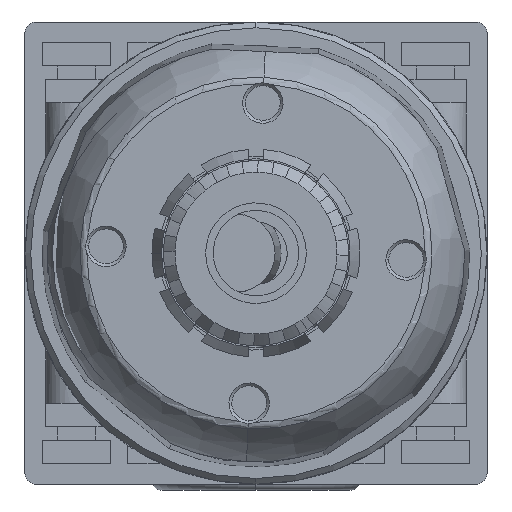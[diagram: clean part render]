
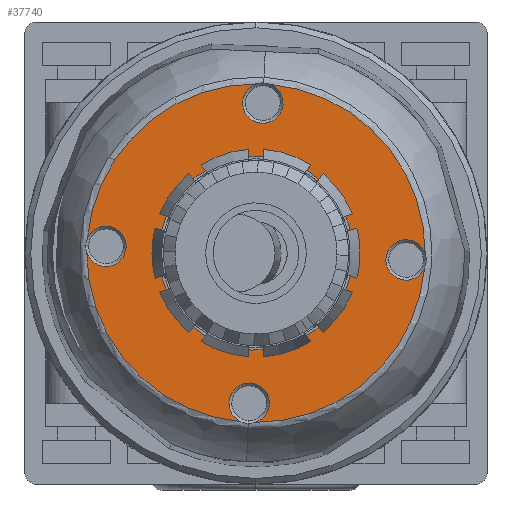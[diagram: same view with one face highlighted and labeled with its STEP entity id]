
A CAD part, front view. The second image highlights one B-rep face of the part: STEP entity #37740.
In plain terms, the highlighted planar face has unit normal (0, -1, 0).
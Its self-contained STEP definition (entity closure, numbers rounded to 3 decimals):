
#9188 = AXIS2_PLACEMENT_3D ( 'NONE', #20213, #20214, #20215 ) ;
#9195 = AXIS2_PLACEMENT_3D ( 'NONE', #20240, #20241, #20242 ) ;
#9201 = AXIS2_PLACEMENT_3D ( 'NONE', #20267, #20268, #20269 ) ;
#9207 = AXIS2_PLACEMENT_3D ( 'NONE', #20294, #20295, #20296 ) ;
#9216 = AXIS2_PLACEMENT_3D ( 'NONE', #17960, #22777, #22778 ) ;
#9248 = AXIS2_PLACEMENT_3D ( 'NONE', #22843, #22844, #22845 ) ;
#9250 = AXIS2_PLACEMENT_3D ( 'NONE', #22852, #22853, #22854 ) ;
#9327 = AXIS2_PLACEMENT_3D ( 'NONE', #23323, #23324, #23325 ) ;
#9330 = AXIS2_PLACEMENT_3D ( 'NONE', #23326, #23327, #23328 ) ;
#9332 = AXIS2_PLACEMENT_3D ( 'NONE', #23329, #23330, #23331 ) ;
#9334 = AXIS2_PLACEMENT_3D ( 'NONE', #23332, #23333, #23334 ) ;
#9336 = AXIS2_PLACEMENT_3D ( 'NONE', #23335, #23336, #23337 ) ;
#9338 = AXIS2_PLACEMENT_3D ( 'NONE', #23340, #23341, #23342 ) ;
#9340 = AXIS2_PLACEMENT_3D ( 'NONE', #23345, #23346, #23347 ) ;
#17695 = CARTESIAN_POINT ( 'NONE',  ( -9.521, -140.18, 3.115 ) ) ;
#17699 = CARTESIAN_POINT ( 'NONE',  ( -12.87, -140.18, 3.902 ) ) ;
#17702 = CARTESIAN_POINT ( 'NONE',  ( 2.23, -140.18, 13.841 ) ) ;
#17706 = CARTESIAN_POINT ( 'NONE',  ( 3.017, -140.18, 17.19 ) ) ;
#17709 = CARTESIAN_POINT ( 'NONE',  ( 12.956, -140.18, 2.09 ) ) ;
#17713 = CARTESIAN_POINT ( 'NONE',  ( 16.305, -140.18, 1.303 ) ) ;
#17716 = CARTESIAN_POINT ( 'NONE',  ( 1.205, -140.18, -8.636 ) ) ;
#17720 = CARTESIAN_POINT ( 'NONE',  ( 0.418, -140.18, -11.985 ) ) ;
#17728 = CARTESIAN_POINT ( 'NONE',  ( 2.1, -140.18, 10.994 ) ) ;
#17729 = CARTESIAN_POINT ( 'NONE',  ( 1.335, -140.18, -5.789 ) ) ;
#17740 = CARTESIAN_POINT ( 'NONE',  ( 16.363, -140.18, 2.569 ) ) ;
#17750 = CARTESIAN_POINT ( 'NONE',  ( 1.684, -140.18, -12.042 ) ) ;
#17960 = CARTESIAN_POINT ( 'NONE',  ( 1.718, -140.18, 2.602 ) ) ;
#20213 = CARTESIAN_POINT ( 'NONE',  ( -11.269, -140.18, 3.195 ) ) ;
#20214 = DIRECTION ( 'NONE',  ( 0., -1., 0. ) ) ;
#20215 = DIRECTION ( 'NONE',  ( -0.999, 0., 0.046 ) ) ;
#20240 = CARTESIAN_POINT ( 'NONE',  ( 2.31, -140.18, 15.589 ) ) ;
#20241 = DIRECTION ( 'NONE',  ( 0., -1., 0. ) ) ;
#20242 = DIRECTION ( 'NONE',  ( 0.046, 0., 0.999 ) ) ;
#20267 = CARTESIAN_POINT ( 'NONE',  ( 14.704, -140.18, 2.01 ) ) ;
#20268 = DIRECTION ( 'NONE',  ( 0., -1., 0. ) ) ;
#20269 = DIRECTION ( 'NONE',  ( 0.999, 0., -0.046 ) ) ;
#20294 = CARTESIAN_POINT ( 'NONE',  ( 1.125, -140.18, -10.384 ) ) ;
#20295 = DIRECTION ( 'NONE',  ( 0., -1., 0. ) ) ;
#20296 = DIRECTION ( 'NONE',  ( -0.046, 0., -0.999 ) ) ;
#20692 = CIRCLE ( 'NONE', #9188, 1.75 ) ;
#20716 = CIRCLE ( 'NONE', #9195, 1.75 ) ;
#20740 = CIRCLE ( 'NONE', #9201, 1.75 ) ;
#20764 = CIRCLE ( 'NONE', #9207, 1.75 ) ;
#20792 = CIRCLE ( 'NONE', #9216, 8.4 ) ;
#20873 = CIRCLE ( 'NONE', #9248, 14.645 ) ;
#20878 = CIRCLE ( 'NONE', #9250, 14.645 ) ;
#20958 = CIRCLE ( 'NONE', #9330, 14.645 ) ;
#20962 = CIRCLE ( 'NONE', #9327, 1.75 ) ;
#20965 = CIRCLE ( 'NONE', #9332, 1.75 ) ;
#20967 = CIRCLE ( 'NONE', #9334, 1.75 ) ;
#20969 = CIRCLE ( 'NONE', #9336, 1.75 ) ;
#20971 = CIRCLE ( 'NONE', #9338, 14.645 ) ;
#20973 = CIRCLE ( 'NONE', #9340, 8.4 ) ;
#22777 = DIRECTION ( 'NONE',  ( 0., -1., 0. ) ) ;
#22778 = DIRECTION ( 'NONE',  ( -0.046, 0., -0.999 ) ) ;
#22843 = CARTESIAN_POINT ( 'NONE',  ( 1.718, -140.18, 2.602 ) ) ;
#22844 = DIRECTION ( 'NONE',  ( 0., -1., 0. ) ) ;
#22845 = DIRECTION ( 'NONE',  ( -0.046, 0., -0.999 ) ) ;
#22852 = CARTESIAN_POINT ( 'NONE',  ( 1.718, -140.18, 2.602 ) ) ;
#22853 = DIRECTION ( 'NONE',  ( 0., -1., 0. ) ) ;
#22854 = DIRECTION ( 'NONE',  ( -0.046, 0., -0.999 ) ) ;
#23323 = CARTESIAN_POINT ( 'NONE',  ( -11.269, -140.18, 3.195 ) ) ;
#23324 = DIRECTION ( 'NONE',  ( 0., -1., 0. ) ) ;
#23325 = DIRECTION ( 'NONE',  ( -0.999, 0., 0.046 ) ) ;
#23326 = CARTESIAN_POINT ( 'NONE',  ( 1.718, -140.18, 2.602 ) ) ;
#23327 = DIRECTION ( 'NONE',  ( 0., -1., 0. ) ) ;
#23328 = DIRECTION ( 'NONE',  ( -0.046, 0., -0.999 ) ) ;
#23329 = CARTESIAN_POINT ( 'NONE',  ( 1.125, -140.18, -10.384 ) ) ;
#23330 = DIRECTION ( 'NONE',  ( 0., -1., 0. ) ) ;
#23331 = DIRECTION ( 'NONE',  ( -0.046, 0., -0.999 ) ) ;
#23332 = CARTESIAN_POINT ( 'NONE',  ( 14.704, -140.18, 2.01 ) ) ;
#23333 = DIRECTION ( 'NONE',  ( 0., -1., 0. ) ) ;
#23334 = DIRECTION ( 'NONE',  ( 0.999, 0., -0.046 ) ) ;
#23335 = CARTESIAN_POINT ( 'NONE',  ( 2.31, -140.18, 15.589 ) ) ;
#23336 = DIRECTION ( 'NONE',  ( 0., -1., 0. ) ) ;
#23337 = DIRECTION ( 'NONE',  ( 0.046, 0., 0.999 ) ) ;
#23340 = CARTESIAN_POINT ( 'NONE',  ( 1.718, -140.18, 2.602 ) ) ;
#23341 = DIRECTION ( 'NONE',  ( 0., -1., 0. ) ) ;
#23342 = DIRECTION ( 'NONE',  ( -0.046, 0., -0.999 ) ) ;
#23345 = CARTESIAN_POINT ( 'NONE',  ( 1.718, -140.18, 2.602 ) ) ;
#23346 = DIRECTION ( 'NONE',  ( 0., -1., 0. ) ) ;
#23347 = DIRECTION ( 'NONE',  ( -0.046, 0., -0.999 ) ) ;
#25538 = CARTESIAN_POINT ( 'NONE',  ( -12.927, -140.18, 2.636 ) ) ;
#25554 = CARTESIAN_POINT ( 'NONE',  ( 1.751, -140.18, 17.247 ) ) ;
#37740 = ADVANCED_FACE ( 'NONE', ( #67440, #67448 ), #68767, .T. ) ;
#39878 = VERTEX_POINT ( 'NONE', #17695 ) ;
#39882 = VERTEX_POINT ( 'NONE', #17699 ) ;
#39885 = VERTEX_POINT ( 'NONE', #17702 ) ;
#39889 = VERTEX_POINT ( 'NONE', #17706 ) ;
#39892 = VERTEX_POINT ( 'NONE', #17709 ) ;
#39896 = VERTEX_POINT ( 'NONE', #17713 ) ;
#39899 = VERTEX_POINT ( 'NONE', #17716 ) ;
#39903 = VERTEX_POINT ( 'NONE', #17720 ) ;
#39911 = VERTEX_POINT ( 'NONE', #17728 ) ;
#39912 = VERTEX_POINT ( 'NONE', #17729 ) ;
#39923 = VERTEX_POINT ( 'NONE', #17740 ) ;
#39933 = VERTEX_POINT ( 'NONE', #17750 ) ;
#40824 = EDGE_CURVE ( 'NONE', #39878, #39882, #20692, .T. ) ;
#40832 = EDGE_CURVE ( 'NONE', #39885, #39889, #20716, .T. ) ;
#40840 = EDGE_CURVE ( 'NONE', #39892, #39896, #20740, .T. ) ;
#40848 = EDGE_CURVE ( 'NONE', #39899, #39903, #20764, .T. ) ;
#40857 = EDGE_CURVE ( 'NONE', #39911, #39912, #20792, .T. ) ;
#40883 = EDGE_CURVE ( 'NONE', #39923, #39889, #20873, .T. ) ;
#40885 = EDGE_CURVE ( 'NONE', #39933, #39896, #20878, .T. ) ;
#43091 = EDGE_LOOP ( 'NONE', ( #45252, #45253, #45254, #45255, #45256, #45257, #45258, #45259, #45260, #45261, #45262, #45263 ) ) ;
#43094 = EDGE_LOOP ( 'NONE', ( #45264, #45265 ) ) ;
#43875 = EDGE_CURVE ( 'NONE', #44394, #39878, #20962, .T. ) ;
#43876 = EDGE_CURVE ( 'NONE', #44394, #39903, #20958, .T. ) ;
#43877 = EDGE_CURVE ( 'NONE', #39933, #39899, #20965, .T. ) ;
#43878 = EDGE_CURVE ( 'NONE', #39923, #39892, #20967, .T. ) ;
#43879 = EDGE_CURVE ( 'NONE', #44410, #39885, #20969, .T. ) ;
#43880 = EDGE_CURVE ( 'NONE', #44410, #39882, #20971, .T. ) ;
#43881 = EDGE_CURVE ( 'NONE', #39912, #39911, #20973, .T. ) ;
#44394 = VERTEX_POINT ( 'NONE', #25538 ) ;
#44410 = VERTEX_POINT ( 'NONE', #25554 ) ;
#45252 = ORIENTED_EDGE ( 'NONE', *, *, #43875, .F. ) ;
#45253 = ORIENTED_EDGE ( 'NONE', *, *, #43876, .T. ) ;
#45254 = ORIENTED_EDGE ( 'NONE', *, *, #40848, .F. ) ;
#45255 = ORIENTED_EDGE ( 'NONE', *, *, #43877, .F. ) ;
#45256 = ORIENTED_EDGE ( 'NONE', *, *, #40885, .T. ) ;
#45257 = ORIENTED_EDGE ( 'NONE', *, *, #40840, .F. ) ;
#45258 = ORIENTED_EDGE ( 'NONE', *, *, #43878, .F. ) ;
#45259 = ORIENTED_EDGE ( 'NONE', *, *, #40883, .T. ) ;
#45260 = ORIENTED_EDGE ( 'NONE', *, *, #40832, .F. ) ;
#45261 = ORIENTED_EDGE ( 'NONE', *, *, #43879, .F. ) ;
#45262 = ORIENTED_EDGE ( 'NONE', *, *, #43880, .T. ) ;
#45263 = ORIENTED_EDGE ( 'NONE', *, *, #40824, .F. ) ;
#45264 = ORIENTED_EDGE ( 'NONE', *, *, #43881, .F. ) ;
#45265 = ORIENTED_EDGE ( 'NONE', *, *, #40857, .F. ) ;
#66381 = AXIS2_PLACEMENT_3D ( 'NONE', #68778, #68780, #68781 ) ;
#67440 = FACE_OUTER_BOUND ( 'NONE', #43091, .T. ) ;
#67448 = FACE_BOUND ( 'NONE', #43094, .T. ) ;
#68767 = PLANE ( 'NONE',  #66381 ) ;
#68778 = CARTESIAN_POINT ( 'NONE',  ( 1.718, -140.18, 2.602 ) ) ;
#68780 = DIRECTION ( 'NONE',  ( 0., -1., 0. ) ) ;
#68781 = DIRECTION ( 'NONE',  ( -0.046, 0., -0.999 ) ) ;
